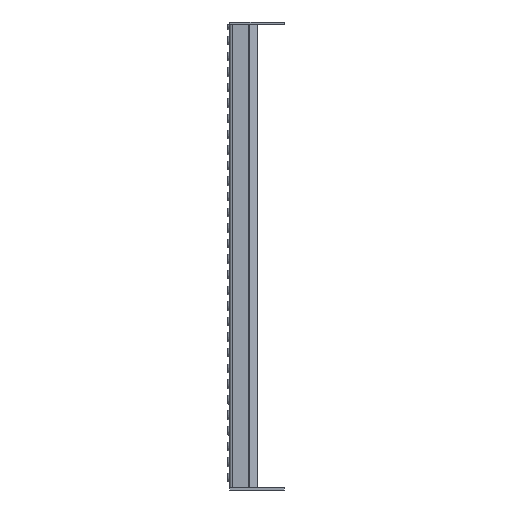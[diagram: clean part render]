
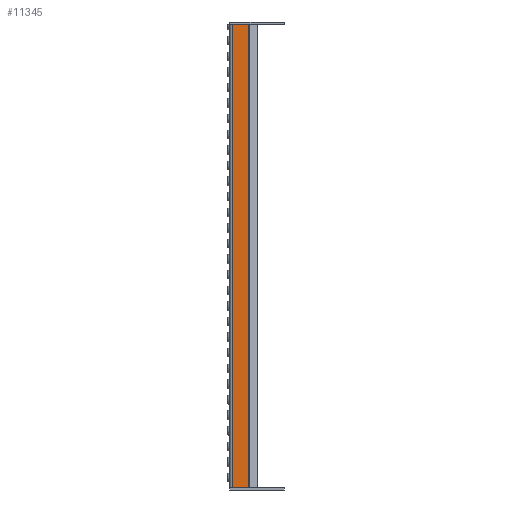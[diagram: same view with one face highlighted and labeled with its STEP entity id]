
A CAD part, left-side view. The second image highlights one B-rep face of the part: STEP entity #11345.
In plain terms, the highlighted planar face has unit normal (-1, 0, 0).
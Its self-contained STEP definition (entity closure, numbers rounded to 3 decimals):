
#1581=FACE_OUTER_BOUND('',#2432,.T.);
#2432=EDGE_LOOP('',(#9821,#9822,#9823,#9824));
#3347=LINE('',#21934,#4443);
#3358=LINE('',#21964,#4454);
#3368=LINE('',#21987,#4464);
#3375=LINE('',#22002,#4471);
#4443=VECTOR('',#15214,10.);
#4454=VECTOR('',#15239,10.);
#4464=VECTOR('',#15261,10.);
#4471=VECTOR('',#15280,10.);
#5572=VERTEX_POINT('',#21931);
#5573=VERTEX_POINT('',#21933);
#5585=VERTEX_POINT('',#21963);
#5592=VERTEX_POINT('',#21986);
#6997=EDGE_CURVE('',#5573,#5572,#3347,.T.);
#7012=EDGE_CURVE('',#5572,#5585,#3358,.T.);
#7024=EDGE_CURVE('',#5592,#5573,#3368,.T.);
#7032=EDGE_CURVE('',#5585,#5592,#3375,.T.);
#9821=ORIENTED_EDGE('',*,*,#7012,.T.);
#9822=ORIENTED_EDGE('',*,*,#7032,.T.);
#9823=ORIENTED_EDGE('',*,*,#7024,.T.);
#9824=ORIENTED_EDGE('',*,*,#6997,.T.);
#10593=PLANE('',#12514);
#11345=ADVANCED_FACE('',(#1581),#10593,.T.);
#12514=AXIS2_PLACEMENT_3D('',#22003,#15281,#15282);
#15214=DIRECTION('',(0.,1.,0.));
#15239=DIRECTION('',(0.,0.,-1.));
#15261=DIRECTION('',(0.,0.,1.));
#15280=DIRECTION('',(0.,-1.,0.));
#15281=DIRECTION('center_axis',(-1.,0.,0.));
#15282=DIRECTION('ref_axis',(0.,0.,1.));
#21931=CARTESIAN_POINT('',(0.,-3.25,594.));
#21933=CARTESIAN_POINT('',(0.,-24.427,594.));
#21934=CARTESIAN_POINT('',(0.,0.,594.));
#21963=CARTESIAN_POINT('',(0.,-3.25,0.));
#21964=CARTESIAN_POINT('',(0.,-3.25,0.));
#21986=CARTESIAN_POINT('',(0.,-24.427,0.));
#21987=CARTESIAN_POINT('',(0.,-24.427,148.5));
#22002=CARTESIAN_POINT('',(0.,0.,0.));
#22003=CARTESIAN_POINT('Origin',(0.,-25.,0.));
